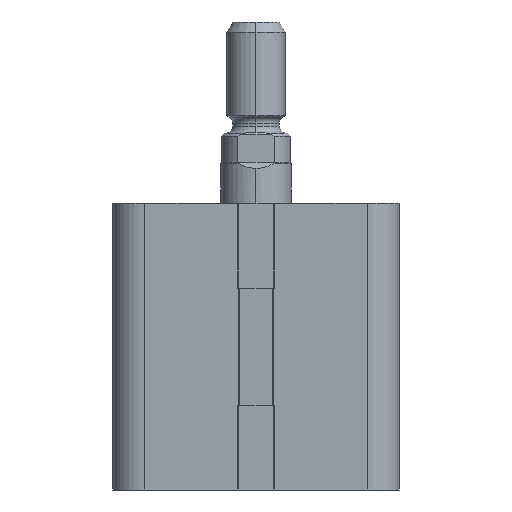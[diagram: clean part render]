
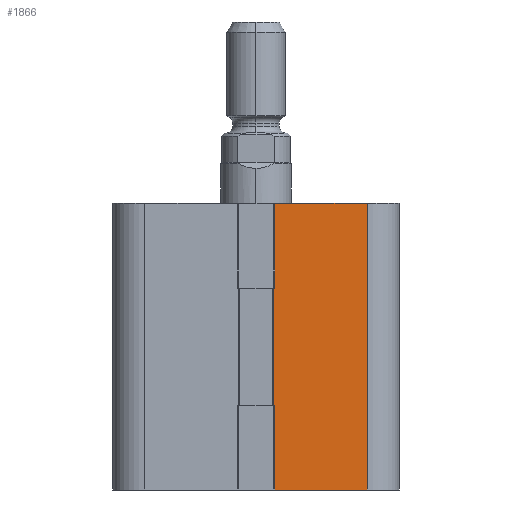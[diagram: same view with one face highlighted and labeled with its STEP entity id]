
A CAD part, front view. The second image highlights one B-rep face of the part: STEP entity #1866.
In plain terms, the highlighted planar face has unit normal (0, -1, 0).
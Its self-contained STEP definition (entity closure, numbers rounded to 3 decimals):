
#678 = CARTESIAN_POINT ( 'NONE',  ( 2.95, -24.5, 20. ) ) ;
#679 = DIRECTION ( 'NONE',  ( 0., 0., -1. ) ) ;
#684 = CARTESIAN_POINT ( 'NONE',  ( 3.2, -24.5, 89.996 ) ) ;
#689 = DIRECTION ( 'NONE',  ( 0., 0., -1. ) ) ;
#695 = CARTESIAN_POINT ( 'NONE',  ( 2.75, -24.5, 20. ) ) ;
#696 = DIRECTION ( 'NONE',  ( 1., 0., 0. ) ) ;
#738 = DIRECTION ( 'NONE',  ( 1., 0., 0. ) ) ;
#742 = CARTESIAN_POINT ( 'NONE',  ( 2.75, -24.5, 0. ) ) ;
#1866 = ADVANCED_FACE ( 'NONE', ( #5773 ), #6456, .F. ) ;
#2320 = LINE ( 'NONE', #13082, #2322 ) ;
#2322 = VECTOR ( 'NONE', #13083, 1000. ) ;
#3052 = CARTESIAN_POINT ( 'NONE',  ( 3.2, -24.5, 34.5 ) ) ;
#3053 = CARTESIAN_POINT ( 'NONE',  ( 19., -24.5, 34.5 ) ) ;
#3125 = CARTESIAN_POINT ( 'NONE',  ( 19., -24.5, -14.5 ) ) ;
#3126 = CARTESIAN_POINT ( 'NONE',  ( 3.2, -24.5, -14.5 ) ) ;
#5362 = EDGE_CURVE ( 'NONE', #11346, #11347, #8531, .T. ) ;
#5773 = FACE_OUTER_BOUND ( 'NONE', #8028, .T. ) ;
#6116 = AXIS2_PLACEMENT_3D ( 'NONE', #6451, #6458, #6459 ) ;
#6451 = CARTESIAN_POINT ( 'NONE',  ( 2.75, -24.5, 20. ) ) ;
#6456 = PLANE ( 'NONE',  #6116 ) ;
#6458 = DIRECTION ( 'NONE',  ( 0., 1., 0. ) ) ;
#6459 = DIRECTION ( 'NONE',  ( 0., 0., 1. ) ) ;
#6938 = VERTEX_POINT ( 'NONE', #9472 ) ;
#6960 = VERTEX_POINT ( 'NONE', #9492 ) ;
#6961 = VERTEX_POINT ( 'NONE', #9493 ) ;
#6965 = VERTEX_POINT ( 'NONE', #9497 ) ;
#7090 = ORIENTED_EDGE ( 'NONE', *, *, #10478, .T. ) ;
#7091 = ORIENTED_EDGE ( 'NONE', *, *, #10455, .T. ) ;
#7092 = ORIENTED_EDGE ( 'NONE', *, *, #10796, .F. ) ;
#7093 = ORIENTED_EDGE ( 'NONE', *, *, #10661, .T. ) ;
#7094 = ORIENTED_EDGE ( 'NONE', *, *, #5362, .F. ) ;
#7095 = ORIENTED_EDGE ( 'NONE', *, *, #10662, .T. ) ;
#7096 = ORIENTED_EDGE ( 'NONE', *, *, #10461, .F. ) ;
#7097 = ORIENTED_EDGE ( 'NONE', *, *, #10454, .T. ) ;
#8028 = EDGE_LOOP ( 'NONE', ( #7090, #7091, #7092, #7093, #7094, #7095, #7096, #7097 ) ) ;
#8531 = LINE ( 'NONE', #9089, #8533 ) ;
#8533 = VECTOR ( 'NONE', #9090, 1000. ) ;
#9089 = CARTESIAN_POINT ( 'NONE',  ( 3., -24.5, 34.5 ) ) ;
#9090 = DIRECTION ( 'NONE',  ( 1., 0., 0. ) ) ;
#9472 = CARTESIAN_POINT ( 'NONE',  ( 2.95, -24.5, 0. ) ) ;
#9492 = CARTESIAN_POINT ( 'NONE',  ( 3.2, -24.5, 0. ) ) ;
#9493 = CARTESIAN_POINT ( 'NONE',  ( 2.95, -24.5, 20. ) ) ;
#9497 = CARTESIAN_POINT ( 'NONE',  ( 3.2, -24.5, 20. ) ) ;
#10454 = EDGE_CURVE ( 'NONE', #6961, #6938, #11922, .T. ) ;
#10455 = EDGE_CURVE ( 'NONE', #6960, #11420, #11914, .T. ) ;
#10461 = EDGE_CURVE ( 'NONE', #6961, #6965, #11933, .T. ) ;
#10478 = EDGE_CURVE ( 'NONE', #6938, #6960, #11955, .T. ) ;
#10661 = EDGE_CURVE ( 'NONE', #11419, #11347, #12261, .T. ) ;
#10662 = EDGE_CURVE ( 'NONE', #11346, #6965, #12263, .T. ) ;
#10796 = EDGE_CURVE ( 'NONE', #11419, #11420, #2320, .T. ) ;
#11346 = VERTEX_POINT ( 'NONE', #3052 ) ;
#11347 = VERTEX_POINT ( 'NONE', #3053 ) ;
#11419 = VERTEX_POINT ( 'NONE', #3125 ) ;
#11420 = VERTEX_POINT ( 'NONE', #3126 ) ;
#11914 = LINE ( 'NONE', #684, #11926 ) ;
#11922 = LINE ( 'NONE', #678, #11924 ) ;
#11924 = VECTOR ( 'NONE', #679, 1000. ) ;
#11926 = VECTOR ( 'NONE', #689, 1000. ) ;
#11933 = LINE ( 'NONE', #695, #11935 ) ;
#11935 = VECTOR ( 'NONE', #696, 1000. ) ;
#11955 = LINE ( 'NONE', #742, #11960 ) ;
#11960 = VECTOR ( 'NONE', #738, 1000. ) ;
#12261 = LINE ( 'NONE', #12740, #12264 ) ;
#12263 = LINE ( 'NONE', #12742, #12266 ) ;
#12264 = VECTOR ( 'NONE', #12741, 1000. ) ;
#12266 = VECTOR ( 'NONE', #12743, 1000. ) ;
#12740 = CARTESIAN_POINT ( 'NONE',  ( 19., -24.5, 20. ) ) ;
#12741 = DIRECTION ( 'NONE',  ( 0., 0., 1. ) ) ;
#12742 = CARTESIAN_POINT ( 'NONE',  ( 3.2, -24.5, 89.996 ) ) ;
#12743 = DIRECTION ( 'NONE',  ( 0., 0., -1. ) ) ;
#13082 = CARTESIAN_POINT ( 'NONE',  ( 24.5, -24.5, -14.5 ) ) ;
#13083 = DIRECTION ( 'NONE',  ( -1., 0., 0. ) ) ;
